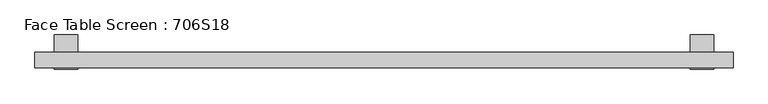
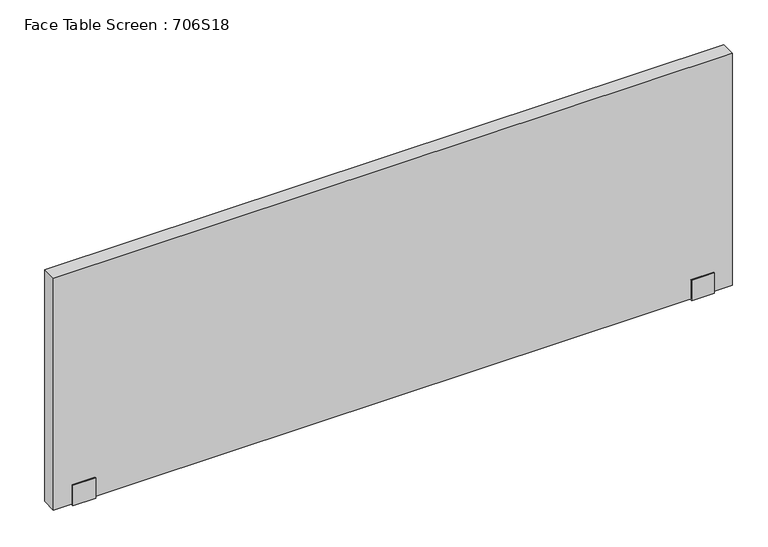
"""IFC4 building model written with IfcOpenShell, lengths in millimetres: furniture geometry, Face Table Screen : 706S18."""

from ifc_helpers import new_model, si_unit, frame, origin, place, context, project, spatial, polyline, outline, extrude, source, transform, mapped, element, save


def face_table_screen_706s18_22aa0667(model_context):
    return source(origin(), model_context, "Body", "SweptSolid", [
        extrude(outline(polyline([(-22.9999947, -156.0), (-22.9999997, -99.0433898), (-20.0, -99.0433898), (-20.0, -153.0), (20.0, -153.0), (20.0, -22.0), (65.0, -22.0), (65.0, -25.0433898), (23.0000062, -25.0433898), (22.9999947, -156.0), (-22.9999947, -156.0)])), frame((790.0, 0.0, 0.0), z_axis=(1.0, 0.0, 0.0), x_axis=(0.0, 1.0, 0.0)), (0.0, 0.0, 1.0), 60.0),
        extrude(outline(polyline([(-22.9999947, -156.0), (-22.9999997, -99.0433898), (-20.0, -99.0433898), (-20.0, -153.0), (20.0, -153.0), (20.0, -22.0), (65.0, -22.0), (65.0, -25.0433898), (23.0000062, -25.0433898), (22.9999947, -156.0), (-22.9999947, -156.0)])), frame((-850.0, 0.0, 0.0), z_axis=(1.0, 0.0, 0.0), x_axis=(0.0, 1.0, 0.0)), (0.0, 0.0, 1.0), 60.0),
        extrude(outline(polyline([(900.0, -20.0), (-900.0, -20.0), (-900.0, 20.0), (900.0, 20.0), (900.0, -20.0)])), frame((0.0, 0.0, -153.0), z_axis=(0.0, 0.0, 1.0), x_axis=(1.0, 0.0, 0.0)), (0.0, 0.0, 1.0), 650.0),
    ])


if __name__ == "__main__":
    model = new_model("IFC4")
    model_context = context("Model", 3, world=origin())
    ifc_project = project(units=[si_unit("LENGTHUNIT", "METRE", prefix="MILLI")], contexts=[model_context])
    site = spatial("IfcSite", under=ifc_project)
    building = spatial("IfcBuilding", under=site)
    placement = place(None, origin())
    face_table_screen_706s18_shape = face_table_screen_706s18_22aa0667(model_context)
    element("IfcFurniture", 1, ObjectType="Face Table Screen : 706S18", at=placement, inside=building, context=model_context, shape_type="MappedRepresentation", body=[
        mapped(face_table_screen_706s18_shape, transform((0.0, 0.0, 0.0), x_axis=(1.0, 0.0, 0.0), y_axis=(0.0, 1.0, 0.0), z_axis=(0.0, 0.0, 1.0))),
    ])
    save(model, "model.ifc")
